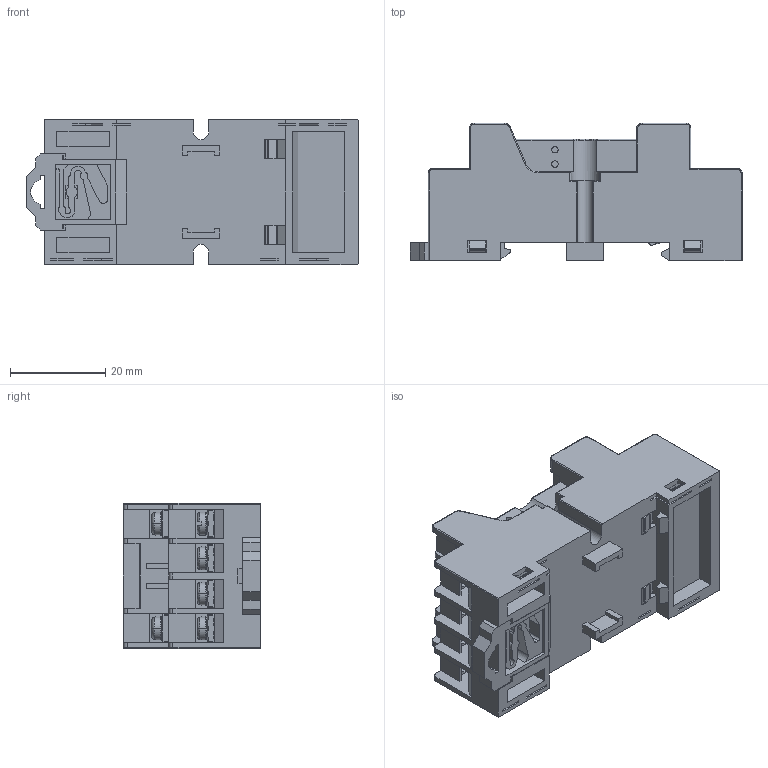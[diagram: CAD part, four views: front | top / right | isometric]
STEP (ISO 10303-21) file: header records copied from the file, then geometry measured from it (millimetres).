
FILE_DESCRIPTION (( 'STEP AP203' ), '1' );
FILE_NAME ('SKF14-E 俋倛.STEP', '2023-01-29T07:13:43', ( '' ), ( '' ), 'SwSTEP 2.0', 'SolidWorks 2018', '' );
FILE_SCHEMA (( 'CONFIG_CONTROL_DESIGN' ));
Length unit declared in the file: millimetre
Products named in the file (1): SKF14-E 俋倛
Bounding box: 69.71 x 28.9 x 30.6 mm (x, y, z)
Volume: 35688.1 mm3; surface area: 17522.6 mm2
Topology: 1 solids, 3 shells, 2967 faces, 8154 edges, 5248 vertices
Faces by surface type: plane 1736, cylinder 752, cone 252, torus 227
Entity records: 101746 total; most frequent: CARTESIAN_POINT 28980, ORIENTED_EDGE 16252, DIRECTION 13881, EDGE_CURVE 8126, VERTEX_POINT 5248, AXIS2_PLACEMENT_3D 4740, VECTOR 4401, LINE 4401
